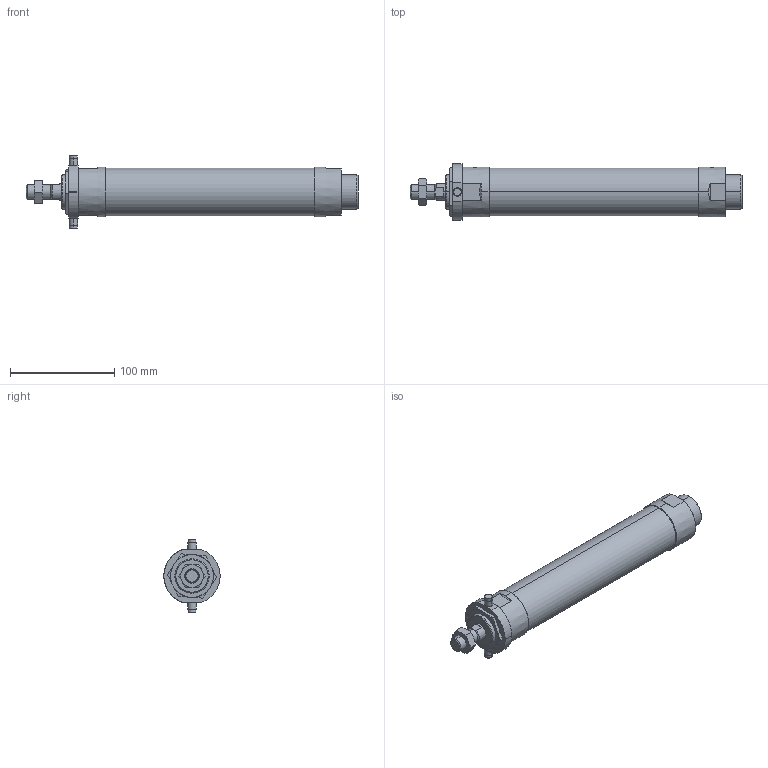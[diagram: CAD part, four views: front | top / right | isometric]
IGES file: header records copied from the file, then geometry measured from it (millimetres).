
Start section: SolidWorks IGES file using analytic representation for surfaces
Global section: file name: C:\Users\Toshiba\Desktop\J#2-40-150-T.IGS; native system: SolidWorks 2014; preprocessor: SolidWorks 2014; author: Toshiba; date: 160308.160311; units: millimetre
Bounding box: 319 x 54 x 70 mm (x, y, z)
Surface area: 55948.4 mm2 (no closed solid volume)
Topology: 0 solids, 0 shells, 121 faces, 2282 edges, 2278 vertices
Faces by surface type: bspline 63, revolution 58
